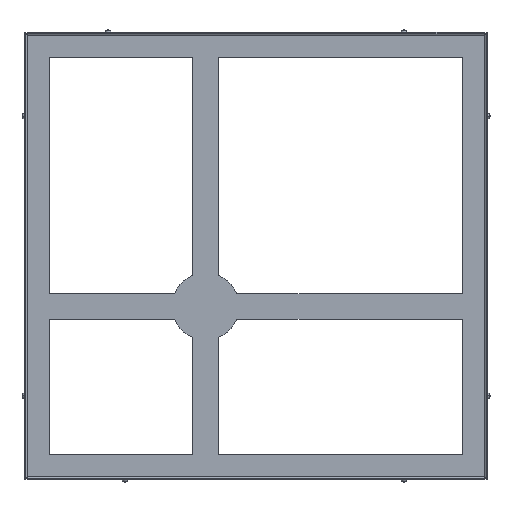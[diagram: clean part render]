
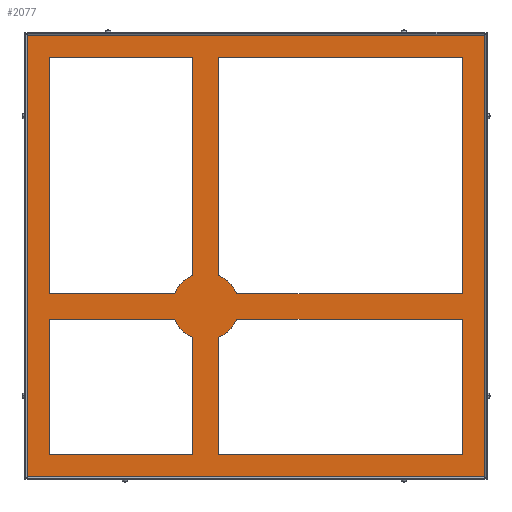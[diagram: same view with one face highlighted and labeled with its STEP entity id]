
A CAD part, front view. The second image highlights one B-rep face of the part: STEP entity #2077.
In plain terms, the highlighted planar face has unit normal (0, -1, 0).
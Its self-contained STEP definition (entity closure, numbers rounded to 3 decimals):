
#2=DIRECTION('',(0.,0.,1.));
#3=VECTOR('',#2,28.155);
#4=CARTESIAN_POINT('',(24.595,3.,-4.5));
#5=LINE('',#4,#3);
#6=DIRECTION('',(-1.,0.,0.));
#7=VECTOR('',#6,29.095);
#8=CARTESIAN_POINT('',(24.595,3.,23.655));
#9=LINE('',#8,#7);
#10=DIRECTION('',(0.,0.,-1.));
#11=VECTOR('',#10,25.947);
#12=CARTESIAN_POINT('',(-4.5,3.,23.655));
#13=LINE('',#12,#11);
#14=CARTESIAN_POINT('',(-6.,3.,-6.));
#15=DIRECTION('',(0.,1.,0.));
#16=DIRECTION('',(0.375,0.,0.927));
#17=AXIS2_PLACEMENT_3D('',#14,#15,#16);
#19=DIRECTION('',(1.,0.,0.));
#20=VECTOR('',#19,26.887);
#21=CARTESIAN_POINT('',(-2.292,3.,-4.5));
#22=LINE('',#21,#20);
#23=DIRECTION('',(-1.,0.,0.));
#24=VECTOR('',#23,26.887);
#25=CARTESIAN_POINT('',(24.595,3.,-7.5));
#26=LINE('',#25,#24);
#27=CARTESIAN_POINT('',(-6.,3.,-6.));
#28=DIRECTION('',(0.,1.,0.));
#29=DIRECTION('',(0.927,0.,-0.375));
#30=AXIS2_PLACEMENT_3D('',#27,#28,#29);
#32=DIRECTION('',(0.,0.,-1.));
#33=VECTOR('',#32,13.947);
#34=CARTESIAN_POINT('',(-4.5,3.,-9.708));
#35=LINE('',#34,#33);
#36=DIRECTION('',(1.,0.,0.));
#37=VECTOR('',#36,29.095);
#38=CARTESIAN_POINT('',(-4.5,3.,-23.655));
#39=LINE('',#38,#37);
#40=DIRECTION('',(0.,0.,1.));
#41=VECTOR('',#40,16.155);
#42=CARTESIAN_POINT('',(24.595,3.,-23.655));
#43=LINE('',#42,#41);
#44=DIRECTION('',(0.,0.,-1.));
#45=VECTOR('',#44,16.155);
#46=CARTESIAN_POINT('',(-24.595,3.,-7.5));
#47=LINE('',#46,#45);
#48=DIRECTION('',(1.,0.,0.));
#49=VECTOR('',#48,17.095);
#50=CARTESIAN_POINT('',(-24.595,3.,-23.655));
#51=LINE('',#50,#49);
#52=DIRECTION('',(0.,0.,1.));
#53=VECTOR('',#52,13.947);
#54=CARTESIAN_POINT('',(-7.5,3.,-23.655));
#55=LINE('',#54,#53);
#56=CARTESIAN_POINT('',(-6.,3.,-6.));
#57=DIRECTION('',(0.,1.,0.));
#58=DIRECTION('',(-0.375,0.,-0.927));
#59=AXIS2_PLACEMENT_3D('',#56,#57,#58);
#61=DIRECTION('',(-1.,0.,0.));
#62=VECTOR('',#61,14.887);
#63=CARTESIAN_POINT('',(-9.708,3.,-7.5));
#64=LINE('',#63,#62);
#65=DIRECTION('',(-1.,0.,0.));
#66=VECTOR('',#65,17.095);
#67=CARTESIAN_POINT('',(-7.5,3.,23.655));
#68=LINE('',#67,#66);
#69=DIRECTION('',(0.,0.,-1.));
#70=VECTOR('',#69,28.155);
#71=CARTESIAN_POINT('',(-24.595,3.,23.655));
#72=LINE('',#71,#70);
#73=DIRECTION('',(1.,0.,0.));
#74=VECTOR('',#73,14.887);
#75=CARTESIAN_POINT('',(-24.595,3.,-4.5));
#76=LINE('',#75,#74);
#77=CARTESIAN_POINT('',(-6.,3.,-6.));
#78=DIRECTION('',(0.,1.,0.));
#79=DIRECTION('',(-0.927,0.,0.375));
#80=AXIS2_PLACEMENT_3D('',#77,#78,#79);
#82=DIRECTION('',(0.,0.,1.));
#83=VECTOR('',#82,25.947);
#84=CARTESIAN_POINT('',(-7.5,3.,-2.292));
#85=LINE('',#84,#83);
#97=DIRECTION('',(0.,0.,-1.));
#98=VECTOR('',#97,52.51);
#99=CARTESIAN_POINT('',(-27.195,3.,26.255));
#100=LINE('',#99,#98);
#584=DIRECTION('',(1.,0.,0.));
#585=VECTOR('',#584,54.39);
#586=CARTESIAN_POINT('',(-27.195,3.,-26.255));
#587=LINE('',#586,#585);
#833=DIRECTION('',(0.,0.,1.));
#834=VECTOR('',#833,52.51);
#835=CARTESIAN_POINT('',(27.195,3.,-26.255));
#836=LINE('',#835,#834);
#1228=DIRECTION('',(-1.,0.,0.));
#1229=VECTOR('',#1228,54.39);
#1230=CARTESIAN_POINT('',(27.195,3.,26.255));
#1231=LINE('',#1230,#1229);
#1618=CARTESIAN_POINT('',(27.195,3.,26.255));
#1619=CARTESIAN_POINT('',(-27.195,3.,26.255));
#1620=VERTEX_POINT('',#1618);
#1621=VERTEX_POINT('',#1619);
#1650=CARTESIAN_POINT('',(-27.195,3.,-26.255));
#1651=CARTESIAN_POINT('',(27.195,3.,-26.255));
#1652=VERTEX_POINT('',#1650);
#1653=VERTEX_POINT('',#1651);
#1918=CARTESIAN_POINT('',(24.595,3.,-4.5));
#1919=CARTESIAN_POINT('',(24.595,3.,23.655));
#1920=VERTEX_POINT('',#1918);
#1921=VERTEX_POINT('',#1919);
#1922=CARTESIAN_POINT('',(-4.5,3.,23.655));
#1923=VERTEX_POINT('',#1922);
#1924=CARTESIAN_POINT('',(-2.292,3.,-4.5));
#1925=VERTEX_POINT('',#1924);
#1934=CARTESIAN_POINT('',(-4.5,3.,-2.292));
#1935=VERTEX_POINT('',#1934);
#1954=CARTESIAN_POINT('',(24.595,3.,-7.5));
#1955=CARTESIAN_POINT('',(-2.292,3.,-7.5));
#1956=VERTEX_POINT('',#1954);
#1957=VERTEX_POINT('',#1955);
#1958=CARTESIAN_POINT('',(-24.595,3.,-7.5));
#1959=CARTESIAN_POINT('',(-24.595,3.,-23.655));
#1960=VERTEX_POINT('',#1958);
#1961=VERTEX_POINT('',#1959);
#1962=CARTESIAN_POINT('',(-4.5,3.,-23.655));
#1963=CARTESIAN_POINT('',(24.595,3.,-23.655));
#1964=VERTEX_POINT('',#1962);
#1965=VERTEX_POINT('',#1963);
#1978=CARTESIAN_POINT('',(-7.5,3.,-23.655));
#1979=CARTESIAN_POINT('',(-7.5,3.,-9.708));
#1980=VERTEX_POINT('',#1978);
#1981=VERTEX_POINT('',#1979);
#1982=CARTESIAN_POINT('',(-9.708,3.,-7.5));
#1983=VERTEX_POINT('',#1982);
#1990=CARTESIAN_POINT('',(-4.5,3.,-9.708));
#1991=VERTEX_POINT('',#1990);
#1994=CARTESIAN_POINT('',(-7.5,3.,23.655));
#1995=CARTESIAN_POINT('',(-24.595,3.,23.655));
#1996=VERTEX_POINT('',#1994);
#1997=VERTEX_POINT('',#1995);
#1998=CARTESIAN_POINT('',(-24.595,3.,-4.5));
#1999=VERTEX_POINT('',#1998);
#2000=CARTESIAN_POINT('',(-9.708,3.,-4.5));
#2001=VERTEX_POINT('',#2000);
#2002=CARTESIAN_POINT('',(-7.5,3.,-2.292));
#2003=VERTEX_POINT('',#2002);
#2014=CARTESIAN_POINT('',(0.,3.,0.));
#2015=DIRECTION('',(0.,1.,0.));
#2016=DIRECTION('',(1.,0.,0.));
#2017=AXIS2_PLACEMENT_3D('',#2014,#2015,#2016);
#2018=PLANE('',#2017);
#2020=ORIENTED_EDGE('',*,*,#2019,.F.);
#2022=ORIENTED_EDGE('',*,*,#2021,.F.);
#2024=ORIENTED_EDGE('',*,*,#2023,.F.);
#2026=ORIENTED_EDGE('',*,*,#2025,.F.);
#2027=EDGE_LOOP('',(#2020,#2022,#2024,#2026));
#2028=FACE_OUTER_BOUND('',#2027,.F.);
#2030=ORIENTED_EDGE('',*,*,#2029,.T.);
#2032=ORIENTED_EDGE('',*,*,#2031,.T.);
#2034=ORIENTED_EDGE('',*,*,#2033,.T.);
#2036=ORIENTED_EDGE('',*,*,#2035,.T.);
#2038=ORIENTED_EDGE('',*,*,#2037,.T.);
#2039=EDGE_LOOP('',(#2030,#2032,#2034,#2036,#2038));
#2040=FACE_BOUND('',#2039,.F.);
#2042=ORIENTED_EDGE('',*,*,#2041,.T.);
#2044=ORIENTED_EDGE('',*,*,#2043,.T.);
#2046=ORIENTED_EDGE('',*,*,#2045,.T.);
#2048=ORIENTED_EDGE('',*,*,#2047,.T.);
#2050=ORIENTED_EDGE('',*,*,#2049,.T.);
#2051=EDGE_LOOP('',(#2042,#2044,#2046,#2048,#2050));
#2052=FACE_BOUND('',#2051,.F.);
#2054=ORIENTED_EDGE('',*,*,#2053,.T.);
#2056=ORIENTED_EDGE('',*,*,#2055,.T.);
#2058=ORIENTED_EDGE('',*,*,#2057,.T.);
#2060=ORIENTED_EDGE('',*,*,#2059,.T.);
#2062=ORIENTED_EDGE('',*,*,#2061,.T.);
#2063=EDGE_LOOP('',(#2054,#2056,#2058,#2060,#2062));
#2064=FACE_BOUND('',#2063,.F.);
#2066=ORIENTED_EDGE('',*,*,#2065,.T.);
#2068=ORIENTED_EDGE('',*,*,#2067,.T.);
#2070=ORIENTED_EDGE('',*,*,#2069,.T.);
#2072=ORIENTED_EDGE('',*,*,#2071,.T.);
#2074=ORIENTED_EDGE('',*,*,#2073,.T.);
#2075=EDGE_LOOP('',(#2066,#2068,#2070,#2072,#2074));
#2076=FACE_BOUND('',#2075,.F.);
#2077=ADVANCED_FACE('',(#2028,#2040,#2052,#2064,#2076),#2018,.F.);
#18=CIRCLE('',#17,4.);
#31=CIRCLE('',#30,4.);
#60=CIRCLE('',#59,4.);
#81=CIRCLE('',#80,4.);
#2019=EDGE_CURVE('',#1621,#1652,#100,.T.);
#2021=EDGE_CURVE('',#1620,#1621,#1231,.T.);
#2023=EDGE_CURVE('',#1653,#1620,#836,.T.);
#2025=EDGE_CURVE('',#1652,#1653,#587,.T.);
#2029=EDGE_CURVE('',#1920,#1921,#5,.T.);
#2031=EDGE_CURVE('',#1921,#1923,#9,.T.);
#2033=EDGE_CURVE('',#1923,#1935,#13,.T.);
#2035=EDGE_CURVE('',#1935,#1925,#18,.T.);
#2037=EDGE_CURVE('',#1925,#1920,#22,.T.);
#2041=EDGE_CURVE('',#1956,#1957,#26,.T.);
#2043=EDGE_CURVE('',#1957,#1991,#31,.T.);
#2045=EDGE_CURVE('',#1991,#1964,#35,.T.);
#2047=EDGE_CURVE('',#1964,#1965,#39,.T.);
#2049=EDGE_CURVE('',#1965,#1956,#43,.T.);
#2053=EDGE_CURVE('',#1960,#1961,#47,.T.);
#2055=EDGE_CURVE('',#1961,#1980,#51,.T.);
#2057=EDGE_CURVE('',#1980,#1981,#55,.T.);
#2059=EDGE_CURVE('',#1981,#1983,#60,.T.);
#2061=EDGE_CURVE('',#1983,#1960,#64,.T.);
#2065=EDGE_CURVE('',#1996,#1997,#68,.T.);
#2067=EDGE_CURVE('',#1997,#1999,#72,.T.);
#2069=EDGE_CURVE('',#1999,#2001,#76,.T.);
#2071=EDGE_CURVE('',#2001,#2003,#81,.T.);
#2073=EDGE_CURVE('',#2003,#1996,#85,.T.);
